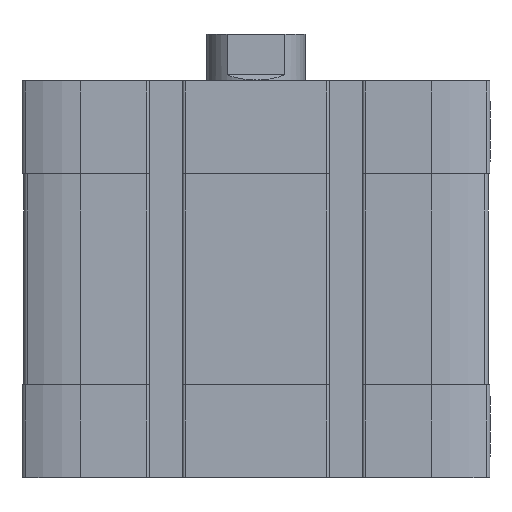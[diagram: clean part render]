
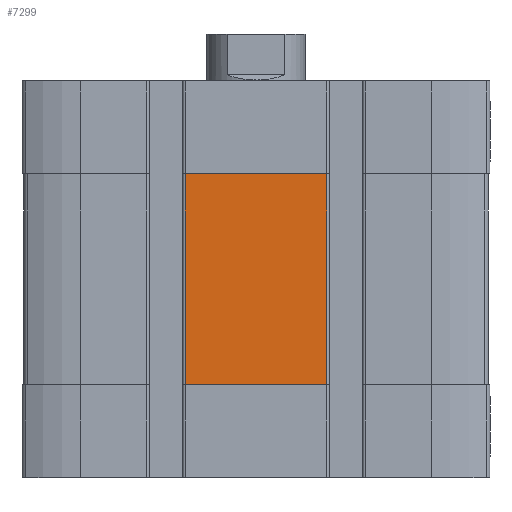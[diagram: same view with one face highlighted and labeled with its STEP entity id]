
A CAD part, front view. The second image highlights one B-rep face of the part: STEP entity #7299.
In plain terms, the highlighted planar face has unit normal (0, -1, 0).
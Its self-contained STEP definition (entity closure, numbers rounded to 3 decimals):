
#84 = DIRECTION ( 'NONE',  ( -1., 0., 0. ) ) ;
#230 = LINE ( 'NONE', #11789, #8462 ) ;
#1087 = LINE ( 'NONE', #8452, #6615 ) ;
#1267 = VERTEX_POINT ( 'NONE', #8812 ) ;
#1287 = ORIENTED_EDGE ( 'NONE', *, *, #10441, .T. ) ;
#1298 = PLANE ( 'NONE',  #8183 ) ;
#1390 = DIRECTION ( 'NONE',  ( 1., 0., 0. ) ) ;
#1565 = EDGE_CURVE ( 'NONE', #1267, #5569, #5396, .T. ) ;
#1952 = CARTESIAN_POINT ( 'NONE',  ( 11.4, -37.5, -15. ) ) ;
#2440 = CARTESIAN_POINT ( 'NONE',  ( -11.4, -37.5, -49. ) ) ;
#2622 = ORIENTED_EDGE ( 'NONE', *, *, #1565, .T. ) ;
#2690 = DIRECTION ( 'NONE',  ( 0., 0., -1. ) ) ;
#2901 = LINE ( 'NONE', #12476, #5634 ) ;
#2920 = DIRECTION ( 'NONE',  ( 0., 0., -1. ) ) ;
#5396 = LINE ( 'NONE', #12360, #14466 ) ;
#5569 = VERTEX_POINT ( 'NONE', #2440 ) ;
#5634 = VECTOR ( 'NONE', #7741, 1000. ) ;
#6615 = VECTOR ( 'NONE', #1390, 1000. ) ;
#6631 = CARTESIAN_POINT ( 'NONE',  ( 11.4, -37.5, -49. ) ) ;
#6794 = EDGE_CURVE ( 'NONE', #13664, #10209, #2901, .T. ) ;
#7299 = ADVANCED_FACE ( 'NONE', ( #15067 ), #1298, .T. ) ;
#7741 = DIRECTION ( 'NONE',  ( 0., 0., 1. ) ) ;
#8183 = AXIS2_PLACEMENT_3D ( 'NONE', #14256, #9498, #2690 ) ;
#8452 = CARTESIAN_POINT ( 'NONE',  ( -11.4, -37.5, -49. ) ) ;
#8462 = VECTOR ( 'NONE', #84, 1000. ) ;
#8812 = CARTESIAN_POINT ( 'NONE',  ( -11.4, -37.5, -15. ) ) ;
#9498 = DIRECTION ( 'NONE',  ( 0., -1., 0. ) ) ;
#10209 = VERTEX_POINT ( 'NONE', #1952 ) ;
#10441 = EDGE_CURVE ( 'NONE', #10209, #1267, #230, .T. ) ;
#10927 = EDGE_LOOP ( 'NONE', ( #13478, #11561, #1287, #2622 ) ) ;
#11561 = ORIENTED_EDGE ( 'NONE', *, *, #6794, .T. ) ;
#11789 = CARTESIAN_POINT ( 'NONE',  ( 0., -37.5, -15. ) ) ;
#12101 = EDGE_CURVE ( 'NONE', #5569, #13664, #1087, .T. ) ;
#12360 = CARTESIAN_POINT ( 'NONE',  ( -11.4, -37.5, -49. ) ) ;
#12476 = CARTESIAN_POINT ( 'NONE',  ( 11.4, -37.5, -49. ) ) ;
#13478 = ORIENTED_EDGE ( 'NONE', *, *, #12101, .T. ) ;
#13664 = VERTEX_POINT ( 'NONE', #6631 ) ;
#14256 = CARTESIAN_POINT ( 'NONE',  ( -11.4, -37.5, -49. ) ) ;
#14466 = VECTOR ( 'NONE', #2920, 1000. ) ;
#15067 = FACE_OUTER_BOUND ( 'NONE', #10927, .T. ) ;
